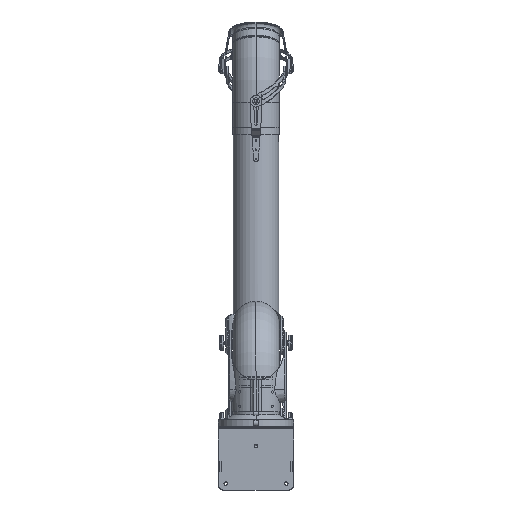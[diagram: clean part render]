
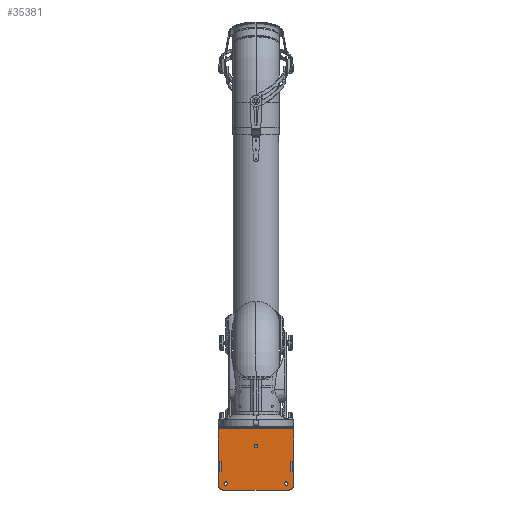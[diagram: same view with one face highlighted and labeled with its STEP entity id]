
A CAD part, front view. The second image highlights one B-rep face of the part: STEP entity #35381.
In plain terms, the highlighted planar face has unit normal (0, -1, 0).
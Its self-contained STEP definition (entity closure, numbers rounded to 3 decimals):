
#34522=CARTESIAN_POINT('',(-105.,0.,-198.));
#34523=DIRECTION('',(0.,1.,0.));
#34524=DIRECTION('',(-1.,0.,0.));
#34525=AXIS2_PLACEMENT_3D('',#34522,#34523,#34524);
#34527=CARTESIAN_POINT('',(-105.,0.,-198.));
#34528=DIRECTION('',(0.,1.,0.));
#34529=DIRECTION('',(1.,0.,0.));
#34530=AXIS2_PLACEMENT_3D('',#34527,#34528,#34529);
#34532=CARTESIAN_POINT('',(105.,0.,-198.));
#34533=DIRECTION('',(0.,1.,0.));
#34534=DIRECTION('',(-1.,0.,0.));
#34535=AXIS2_PLACEMENT_3D('',#34532,#34533,#34534);
#34537=CARTESIAN_POINT('',(105.,0.,-198.));
#34538=DIRECTION('',(0.,1.,0.));
#34539=DIRECTION('',(1.,0.,0.));
#34540=AXIS2_PLACEMENT_3D('',#34537,#34538,#34539);
#34542=CARTESIAN_POINT('',(0.,0.,-68.));
#34543=DIRECTION('',(0.,1.,0.));
#34544=DIRECTION('',(-1.,0.,0.));
#34545=AXIS2_PLACEMENT_3D('',#34542,#34543,#34544);
#34547=CARTESIAN_POINT('',(0.,0.,-68.));
#34548=DIRECTION('',(0.,1.,0.));
#34549=DIRECTION('',(1.,0.,0.));
#34550=AXIS2_PLACEMENT_3D('',#34547,#34548,#34549);
#34552=CARTESIAN_POINT('',(115.,0.,-205.));
#34553=DIRECTION('',(0.,-1.,0.));
#34554=DIRECTION('',(0.,0.,-1.));
#34555=AXIS2_PLACEMENT_3D('',#34552,#34553,#34554);
#34557=CARTESIAN_POINT('',(-115.,0.,-205.));
#34558=DIRECTION('',(0.,-1.,0.));
#34559=DIRECTION('',(-1.,0.,0.));
#34560=AXIS2_PLACEMENT_3D('',#34557,#34558,#34559);
#34562=DIRECTION('',(0.,0.,-1.));
#34563=VECTOR('',#34562,197.);
#34564=CARTESIAN_POINT('',(-130.,0.,-8.));
#34565=LINE('',#34564,#34563);
#34566=DIRECTION('',(0.,0.,-1.));
#34567=VECTOR('',#34566,197.);
#34568=CARTESIAN_POINT('',(130.,0.,-8.));
#34569=LINE('',#34568,#34567);
#34570=DIRECTION('',(-1.,0.,0.));
#34571=VECTOR('',#34570,4.2);
#34572=CARTESIAN_POINT('',(125.1,0.,-154.));
#34573=LINE('',#34572,#34571);
#34574=DIRECTION('',(0.,0.,-1.));
#34575=VECTOR('',#34574,28.);
#34576=CARTESIAN_POINT('',(125.1,0.,-126.));
#34577=LINE('',#34576,#34575);
#34578=DIRECTION('',(1.,0.,0.));
#34579=VECTOR('',#34578,4.2);
#34580=CARTESIAN_POINT('',(120.9,0.,-126.));
#34581=LINE('',#34580,#34579);
#34582=DIRECTION('',(0.,0.,1.));
#34583=VECTOR('',#34582,28.);
#34584=CARTESIAN_POINT('',(120.9,0.,-154.));
#34585=LINE('',#34584,#34583);
#34586=DIRECTION('',(1.,0.,0.));
#34587=VECTOR('',#34586,4.2);
#34588=CARTESIAN_POINT('',(-125.1,0.,-154.));
#34589=LINE('',#34588,#34587);
#34590=DIRECTION('',(0.,0.,1.));
#34591=VECTOR('',#34590,28.);
#34592=CARTESIAN_POINT('',(-120.9,0.,-154.));
#34593=LINE('',#34592,#34591);
#34594=DIRECTION('',(-1.,0.,0.));
#34595=VECTOR('',#34594,4.2);
#34596=CARTESIAN_POINT('',(-120.9,0.,-126.));
#34597=LINE('',#34596,#34595);
#34598=DIRECTION('',(0.,0.,-1.));
#34599=VECTOR('',#34598,28.);
#34600=CARTESIAN_POINT('',(-125.1,0.,-126.));
#34601=LINE('',#34600,#34599);
#34732=DIRECTION('',(1.,0.,0.));
#34733=VECTOR('',#34732,260.);
#34734=CARTESIAN_POINT('',(-130.,0.,-8.));
#34735=LINE('',#34734,#34733);
#34756=DIRECTION('',(1.,0.,0.));
#34757=VECTOR('',#34756,230.);
#34758=CARTESIAN_POINT('',(-115.,0.,-220.));
#34759=LINE('',#34758,#34757);
#35156=CARTESIAN_POINT('',(-130.,0.,-8.));
#35157=VERTEX_POINT('',#35156);
#35158=CARTESIAN_POINT('',(130.,0.,-8.));
#35159=VERTEX_POINT('',#35158);
#35172=CARTESIAN_POINT('',(-111.,0.,-198.));
#35173=CARTESIAN_POINT('',(-99.,0.,-198.));
#35174=VERTEX_POINT('',#35172);
#35175=VERTEX_POINT('',#35173);
#35176=CARTESIAN_POINT('',(99.,0.,-198.));
#35177=CARTESIAN_POINT('',(111.,0.,-198.));
#35178=VERTEX_POINT('',#35176);
#35179=VERTEX_POINT('',#35177);
#35180=CARTESIAN_POINT('',(-6.,0.,-68.));
#35181=CARTESIAN_POINT('',(6.,0.,-68.));
#35182=VERTEX_POINT('',#35180);
#35183=VERTEX_POINT('',#35181);
#35244=CARTESIAN_POINT('',(115.,0.,-220.));
#35245=CARTESIAN_POINT('',(130.,0.,-205.));
#35246=VERTEX_POINT('',#35244);
#35247=VERTEX_POINT('',#35245);
#35252=CARTESIAN_POINT('',(-130.,0.,-205.));
#35253=CARTESIAN_POINT('',(-115.,0.,-220.));
#35254=VERTEX_POINT('',#35252);
#35255=VERTEX_POINT('',#35253);
#35260=CARTESIAN_POINT('',(125.1,0.,-154.));
#35261=CARTESIAN_POINT('',(120.9,0.,-154.));
#35262=VERTEX_POINT('',#35260);
#35263=VERTEX_POINT('',#35261);
#35264=CARTESIAN_POINT('',(120.9,0.,-126.));
#35265=VERTEX_POINT('',#35264);
#35266=CARTESIAN_POINT('',(125.1,0.,-126.));
#35267=VERTEX_POINT('',#35266);
#35276=CARTESIAN_POINT('',(-125.1,0.,-154.));
#35277=CARTESIAN_POINT('',(-120.9,0.,-154.));
#35278=VERTEX_POINT('',#35276);
#35279=VERTEX_POINT('',#35277);
#35280=CARTESIAN_POINT('',(-120.9,0.,-126.));
#35281=VERTEX_POINT('',#35280);
#35282=CARTESIAN_POINT('',(-125.1,0.,-126.));
#35283=VERTEX_POINT('',#35282);
#35324=CARTESIAN_POINT('',(-175.,0.,0.));
#35325=DIRECTION('',(0.,-1.,0.));
#35326=DIRECTION('',(0.,0.,-1.));
#35327=AXIS2_PLACEMENT_3D('',#35324,#35325,#35326);
#35328=PLANE('',#35327);
#35330=ORIENTED_EDGE('',*,*,#35329,.F.);
#35332=ORIENTED_EDGE('',*,*,#35331,.F.);
#35334=ORIENTED_EDGE('',*,*,#35333,.F.);
#35336=ORIENTED_EDGE('',*,*,#35335,.F.);
#35338=ORIENTED_EDGE('',*,*,#35337,.T.);
#35340=ORIENTED_EDGE('',*,*,#35339,.T.);
#35341=EDGE_LOOP('',(#35330,#35332,#35334,#35336,#35338,#35340));
#35342=FACE_OUTER_BOUND('',#35341,.F.);
#35344=ORIENTED_EDGE('',*,*,#35343,.F.);
#35346=ORIENTED_EDGE('',*,*,#35345,.F.);
#35347=EDGE_LOOP('',(#35344,#35346));
#35348=FACE_BOUND('',#35347,.F.);
#35350=ORIENTED_EDGE('',*,*,#35349,.F.);
#35352=ORIENTED_EDGE('',*,*,#35351,.F.);
#35353=EDGE_LOOP('',(#35350,#35352));
#35354=FACE_BOUND('',#35353,.F.);
#35356=ORIENTED_EDGE('',*,*,#35355,.F.);
#35358=ORIENTED_EDGE('',*,*,#35357,.F.);
#35359=EDGE_LOOP('',(#35356,#35358));
#35360=FACE_BOUND('',#35359,.F.);
#35362=ORIENTED_EDGE('',*,*,#35361,.F.);
#35364=ORIENTED_EDGE('',*,*,#35363,.F.);
#35366=ORIENTED_EDGE('',*,*,#35365,.F.);
#35368=ORIENTED_EDGE('',*,*,#35367,.F.);
#35369=EDGE_LOOP('',(#35362,#35364,#35366,#35368));
#35370=FACE_BOUND('',#35369,.F.);
#35372=ORIENTED_EDGE('',*,*,#35371,.T.);
#35374=ORIENTED_EDGE('',*,*,#35373,.T.);
#35376=ORIENTED_EDGE('',*,*,#35375,.T.);
#35378=ORIENTED_EDGE('',*,*,#35377,.T.);
#35379=EDGE_LOOP('',(#35372,#35374,#35376,#35378));
#35380=FACE_BOUND('',#35379,.F.);
#34526=CIRCLE('',#34525,6.);
#34531=CIRCLE('',#34530,6.);
#34536=CIRCLE('',#34535,6.);
#34541=CIRCLE('',#34540,6.);
#34546=CIRCLE('',#34545,6.);
#34551=CIRCLE('',#34550,6.);
#34556=CIRCLE('',#34555,15.);
#34561=CIRCLE('',#34560,15.);
#35329=EDGE_CURVE('',#35246,#35247,#34556,.T.);
#35331=EDGE_CURVE('',#35255,#35246,#34759,.T.);
#35333=EDGE_CURVE('',#35254,#35255,#34561,.T.);
#35335=EDGE_CURVE('',#35157,#35254,#34565,.T.);
#35337=EDGE_CURVE('',#35157,#35159,#34735,.T.);
#35339=EDGE_CURVE('',#35159,#35247,#34569,.T.);
#35343=EDGE_CURVE('',#35178,#35179,#34536,.T.);
#35345=EDGE_CURVE('',#35179,#35178,#34541,.T.);
#35349=EDGE_CURVE('',#35182,#35183,#34546,.T.);
#35351=EDGE_CURVE('',#35183,#35182,#34551,.T.);
#35355=EDGE_CURVE('',#35174,#35175,#34526,.T.);
#35357=EDGE_CURVE('',#35175,#35174,#34531,.T.);
#35361=EDGE_CURVE('',#35262,#35263,#34573,.T.);
#35363=EDGE_CURVE('',#35267,#35262,#34577,.T.);
#35365=EDGE_CURVE('',#35265,#35267,#34581,.T.);
#35367=EDGE_CURVE('',#35263,#35265,#34585,.T.);
#35371=EDGE_CURVE('',#35278,#35279,#34589,.T.);
#35373=EDGE_CURVE('',#35279,#35281,#34593,.T.);
#35375=EDGE_CURVE('',#35281,#35283,#34597,.T.);
#35377=EDGE_CURVE('',#35283,#35278,#34601,.T.);
#35381=ADVANCED_FACE('',(#35342,#35348,#35354,#35360,#35370,#35380),#35328,.T.);
